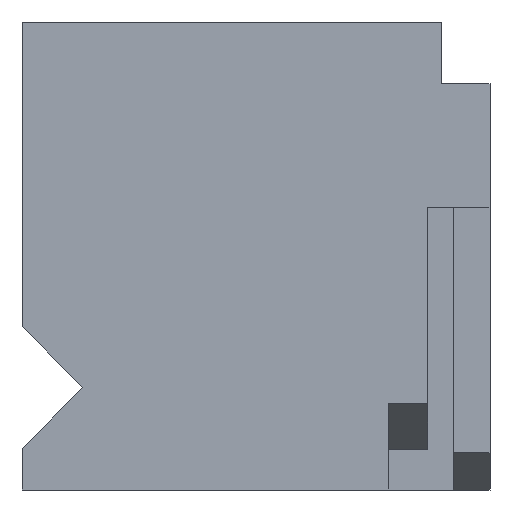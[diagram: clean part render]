
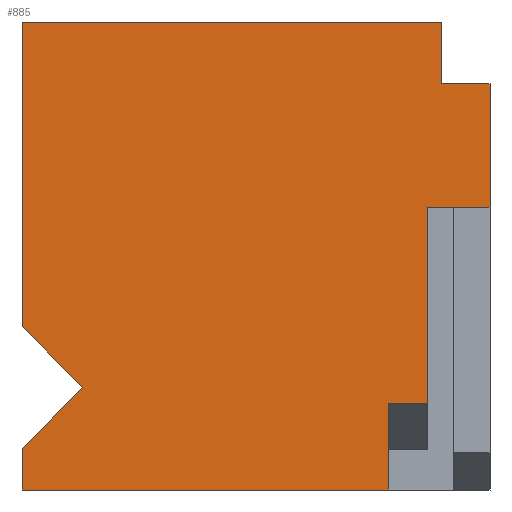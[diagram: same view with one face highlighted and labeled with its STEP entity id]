
A CAD part, left-side view. The second image highlights one B-rep face of the part: STEP entity #885.
In plain terms, the highlighted planar face has unit normal (-1, 0, 0).
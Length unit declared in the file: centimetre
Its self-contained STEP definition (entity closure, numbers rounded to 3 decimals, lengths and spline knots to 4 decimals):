
#10 = CARTESIAN_POINT ( 'NONE',  ( 0., 1000., 0. ) ) ;
#12 = ORIENTED_EDGE ( 'NONE', *, *, #1081, .F. ) ;
#17 = CARTESIAN_POINT ( 'NONE',  ( 0., 1000., 0. ) ) ;
#26 = EDGE_CURVE ( 'NONE', #534, #243, #423, .T. ) ;
#29 = DIRECTION ( 'NONE',  ( 0., 0., -1. ) ) ;
#43 = DIRECTION ( 'NONE',  ( 0., 0., -1. ) ) ;
#68 = ORIENTED_EDGE ( 'NONE', *, *, #1045, .T. ) ;
#87 = ORIENTED_EDGE ( 'NONE', *, *, #1304, .F. ) ;
#92 = CARTESIAN_POINT ( 'NONE',  ( 0., 0., 603.8645 ) ) ;
#101 = DIRECTION ( 'NONE',  ( 0., 0., -1. ) ) ;
#115 = CARTESIAN_POINT ( 'NONE',  ( 0., 1000., 88.7651 ) ) ;
#127 = AXIS2_PLACEMENT_3D ( 'NONE', #1135, #1258, #943 ) ;
#131 = DIRECTION ( 'NONE',  ( 0., -1., 0. ) ) ;
#134 = ORIENTED_EDGE ( 'NONE', *, *, #1249, .T. ) ;
#170 = VECTOR ( 'NONE', #101, 100. ) ;
#197 = LINE ( 'NONE', #1159, #516 ) ;
#208 = VERTEX_POINT ( 'NONE', #679 ) ;
#215 = EDGE_CURVE ( 'NONE', #243, #948, #1318, .T. ) ;
#222 = VERTEX_POINT ( 'NONE', #553 ) ;
#235 = CARTESIAN_POINT ( 'NONE',  ( 0., 103.073, 868.2105 ) ) ;
#237 = LINE ( 'NONE', #485, #1194 ) ;
#243 = VERTEX_POINT ( 'NONE', #17 ) ;
#248 = ORIENTED_EDGE ( 'NONE', *, *, #1381, .F. ) ;
#254 = VERTEX_POINT ( 'NONE', #348 ) ;
#256 = CARTESIAN_POINT ( 'NONE',  ( 0., 103.073, 1000. ) ) ;
#264 = VECTOR ( 'NONE', #592, 100. ) ;
#313 = VECTOR ( 'NONE', #564, 100. ) ;
#330 = CARTESIAN_POINT ( 'NONE',  ( 0., 1000., 1000. ) ) ;
#339 = CARTESIAN_POINT ( 'NONE',  ( 0., 869.8298, 218.9354 ) ) ;
#348 = CARTESIAN_POINT ( 'NONE',  ( 0., 1000., 349.1056 ) ) ;
#352 = LINE ( 'NONE', #879, #313 ) ;
#365 = LINE ( 'NONE', #1331, #1280 ) ;
#414 = LINE ( 'NONE', #1181, #1326 ) ;
#423 = LINE ( 'NONE', #741, #170 ) ;
#427 = CARTESIAN_POINT ( 'NONE',  ( 0., 0., 868.2105 ) ) ;
#480 = ORIENTED_EDGE ( 'NONE', *, *, #1212, .F. ) ;
#485 = CARTESIAN_POINT ( 'NONE',  ( 0., 869.8298, 218.9354 ) ) ;
#491 = EDGE_CURVE ( 'NONE', #638, #208, #1061, .T. ) ;
#493 = LINE ( 'NONE', #949, #540 ) ;
#495 = VECTOR ( 'NONE', #131, 100. ) ;
#516 = VECTOR ( 'NONE', #850, 100. ) ;
#531 = ORIENTED_EDGE ( 'NONE', *, *, #1200, .F. ) ;
#534 = VERTEX_POINT ( 'NONE', #662 ) ;
#540 = VECTOR ( 'NONE', #923, 100. ) ;
#544 = VERTEX_POINT ( 'NONE', #330 ) ;
#553 = CARTESIAN_POINT ( 'NONE',  ( 0., 132.8211, 184.4175 ) ) ;
#564 = DIRECTION ( 'NONE',  ( 0., 0., -1. ) ) ;
#592 = DIRECTION ( 'NONE',  ( 0., 1., 0. ) ) ;
#593 = VERTEX_POINT ( 'NONE', #339 ) ;
#638 = VERTEX_POINT ( 'NONE', #871 ) ;
#662 = CARTESIAN_POINT ( 'NONE',  ( 0., 1000., 88.7651 ) ) ;
#670 = LINE ( 'NONE', #911, #1166 ) ;
#678 = DIRECTION ( 'NONE',  ( 0., 0., -1. ) ) ;
#679 = CARTESIAN_POINT ( 'NONE',  ( 0., 132.8211, 603.8645 ) ) ;
#680 = EDGE_CURVE ( 'NONE', #1327, #803, #493, .T. ) ;
#681 = DIRECTION ( 'NONE',  ( 0., 0.707, 0.707 ) ) ;
#689 = EDGE_LOOP ( 'NONE', ( #765, #68, #531, #1330, #480, #952, #87, #840, #134, #248, #12, #1058, #1034 ) ) ;
#699 = VECTOR ( 'NONE', #29, 100. ) ;
#723 = LINE ( 'NONE', #829, #969 ) ;
#741 = CARTESIAN_POINT ( 'NONE',  ( 0., 1000., 1000. ) ) ;
#745 = LINE ( 'NONE', #115, #1010 ) ;
#765 = ORIENTED_EDGE ( 'NONE', *, *, #1004, .F. ) ;
#803 = VERTEX_POINT ( 'NONE', #427 ) ;
#811 = CARTESIAN_POINT ( 'NONE',  ( 0., 216.8462, 0. ) ) ;
#829 = CARTESIAN_POINT ( 'NONE',  ( 0., 1000., 1000. ) ) ;
#840 = ORIENTED_EDGE ( 'NONE', *, *, #876, .F. ) ;
#850 = DIRECTION ( 'NONE',  ( 0., 0., -1. ) ) ;
#871 = CARTESIAN_POINT ( 'NONE',  ( 0., 0., 603.8645 ) ) ;
#876 = EDGE_CURVE ( 'NONE', #544, #1283, #723, .T. ) ;
#879 = CARTESIAN_POINT ( 'NONE',  ( 0., 132.8211, 603.8645 ) ) ;
#885 = ADVANCED_FACE ( 'NONE', ( #1232 ), #1248, .F. ) ;
#911 = CARTESIAN_POINT ( 'NONE',  ( 0., 0., 1000. ) ) ;
#923 = DIRECTION ( 'NONE',  ( 0., -1., 0. ) ) ;
#943 = DIRECTION ( 'NONE',  ( 0., 0., -1. ) ) ;
#948 = VERTEX_POINT ( 'NONE', #811 ) ;
#949 = CARTESIAN_POINT ( 'NONE',  ( 0., 0., 868.2105 ) ) ;
#952 = ORIENTED_EDGE ( 'NONE', *, *, #680, .F. ) ;
#969 = VECTOR ( 'NONE', #1035, 100. ) ;
#1004 = EDGE_CURVE ( 'NONE', #1062, #948, #197, .T. ) ;
#1010 = VECTOR ( 'NONE', #1174, 100. ) ;
#1034 = ORIENTED_EDGE ( 'NONE', *, *, #215, .T. ) ;
#1035 = DIRECTION ( 'NONE',  ( 0., -1., 0. ) ) ;
#1045 = EDGE_CURVE ( 'NONE', #1062, #222, #414, .T. ) ;
#1058 = ORIENTED_EDGE ( 'NONE', *, *, #26, .T. ) ;
#1061 = LINE ( 'NONE', #92, #264 ) ;
#1062 = VERTEX_POINT ( 'NONE', #1293 ) ;
#1081 = EDGE_CURVE ( 'NONE', #534, #593, #745, .T. ) ;
#1135 = CARTESIAN_POINT ( 'NONE',  ( 0., 1000., 1000. ) ) ;
#1159 = CARTESIAN_POINT ( 'NONE',  ( 0., 216.8462, 0. ) ) ;
#1166 = VECTOR ( 'NONE', #678, 100. ) ;
#1167 = DIRECTION ( 'NONE',  ( 0., -1., 0. ) ) ;
#1174 = DIRECTION ( 'NONE',  ( 0., -0.707, 0.707 ) ) ;
#1181 = CARTESIAN_POINT ( 'NONE',  ( 0., 216.8462, 184.4175 ) ) ;
#1194 = VECTOR ( 'NONE', #681, 100. ) ;
#1200 = EDGE_CURVE ( 'NONE', #208, #222, #352, .T. ) ;
#1205 = LINE ( 'NONE', #235, #699 ) ;
#1212 = EDGE_CURVE ( 'NONE', #803, #638, #670, .T. ) ;
#1213 = CARTESIAN_POINT ( 'NONE',  ( 0., 103.073, 868.2105 ) ) ;
#1232 = FACE_OUTER_BOUND ( 'NONE', #689, .T. ) ;
#1248 = PLANE ( 'NONE',  #127 ) ;
#1249 = EDGE_CURVE ( 'NONE', #544, #254, #365, .T. ) ;
#1258 = DIRECTION ( 'NONE',  ( 1., 0., 0. ) ) ;
#1280 = VECTOR ( 'NONE', #43, 100. ) ;
#1283 = VERTEX_POINT ( 'NONE', #256 ) ;
#1293 = CARTESIAN_POINT ( 'NONE',  ( 0., 216.8462, 184.4175 ) ) ;
#1304 = EDGE_CURVE ( 'NONE', #1283, #1327, #1205, .T. ) ;
#1318 = LINE ( 'NONE', #10, #495 ) ;
#1326 = VECTOR ( 'NONE', #1167, 100. ) ;
#1327 = VERTEX_POINT ( 'NONE', #1213 ) ;
#1330 = ORIENTED_EDGE ( 'NONE', *, *, #491, .F. ) ;
#1331 = CARTESIAN_POINT ( 'NONE',  ( 0., 1000., 1000. ) ) ;
#1381 = EDGE_CURVE ( 'NONE', #593, #254, #237, .T. ) ;
